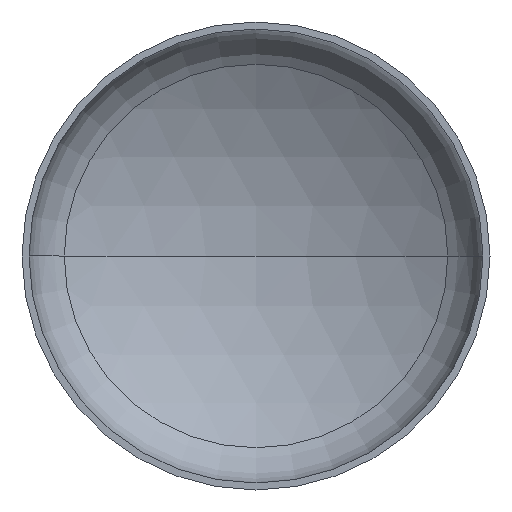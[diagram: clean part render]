
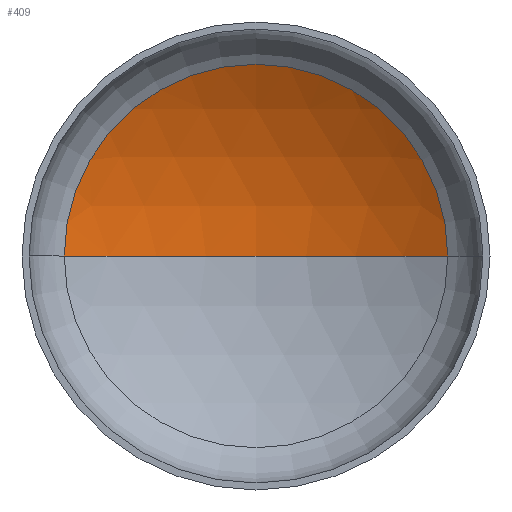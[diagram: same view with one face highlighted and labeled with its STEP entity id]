
A CAD part, front view. The second image highlights one B-rep face of the part: STEP entity #409.
In plain terms, the highlighted spherical face has radius 960 mm.
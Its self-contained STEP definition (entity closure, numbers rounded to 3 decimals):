
#11 = AXIS2_PLACEMENT_3D ( 'NONE', #211, #210, #286 ) ;
#36 = ORIENTED_EDGE ( 'NONE', *, *, #98, .T. ) ;
#37 = EDGE_LOOP ( 'NONE', ( #49, #36, #139 ) ) ;
#41 = AXIS2_PLACEMENT_3D ( 'NONE', #255, #254, #251 ) ;
#42 = AXIS2_PLACEMENT_3D ( 'NONE', #361, #386, #237 ) ;
#49 = ORIENTED_EDGE ( 'NONE', *, *, #350, .F. ) ;
#54 = VERTEX_POINT ( 'NONE', #277 ) ;
#92 = VERTEX_POINT ( 'NONE', #230 ) ;
#96 = EDGE_CURVE ( 'NONE', #124, #92, #156, .T. ) ;
#98 = EDGE_CURVE ( 'NONE', #54, #124, #405, .T. ) ;
#124 = VERTEX_POINT ( 'NONE', #233 ) ;
#139 = ORIENTED_EDGE ( 'NONE', *, *, #96, .T. ) ;
#154 = DIRECTION ( 'NONE',  ( 0., 0., -1. ) ) ;
#156 = CIRCLE ( 'NONE', #42, 491.768 ) ;
#178 = DIRECTION ( 'NONE',  ( -1., 0., 0. ) ) ;
#182 = CARTESIAN_POINT ( 'NONE',  ( 0., -610.594, 0. ) ) ;
#210 = DIRECTION ( 'NONE',  ( 0., 0., 1. ) ) ;
#211 = CARTESIAN_POINT ( 'NONE',  ( 0., -610.594, 0. ) ) ;
#230 = CARTESIAN_POINT ( 'NONE',  ( -491.768, 213.884, 0. ) ) ;
#233 = CARTESIAN_POINT ( 'NONE',  ( 491.768, 213.884, 0. ) ) ;
#237 = DIRECTION ( 'NONE',  ( 1., 0., 0. ) ) ;
#244 = CIRCLE ( 'NONE', #11, 960. ) ;
#251 = DIRECTION ( 'NONE',  ( -1., 0., 0. ) ) ;
#254 = DIRECTION ( 'NONE',  ( 0., 0., -1. ) ) ;
#255 = CARTESIAN_POINT ( 'NONE',  ( 0., -610.594, 0. ) ) ;
#277 = CARTESIAN_POINT ( 'NONE',  ( 0., 349.406, 0. ) ) ;
#286 = DIRECTION ( 'NONE',  ( 1., 0., 0. ) ) ;
#315 = AXIS2_PLACEMENT_3D ( 'NONE', #182, #154, #178 ) ;
#350 = EDGE_CURVE ( 'NONE', #54, #92, #244, .T. ) ;
#354 = SPHERICAL_SURFACE ( 'NONE', #315, 960. ) ;
#361 = CARTESIAN_POINT ( 'NONE',  ( 0., 213.884, 0. ) ) ;
#386 = DIRECTION ( 'NONE',  ( 0., -1., 0. ) ) ;
#405 = CIRCLE ( 'NONE', #41, 960. ) ;
#406 = FACE_OUTER_BOUND ( 'NONE', #37, .T. ) ;
#409 = ADVANCED_FACE ( 'NONE', ( #406 ), #354, .F. ) ;
